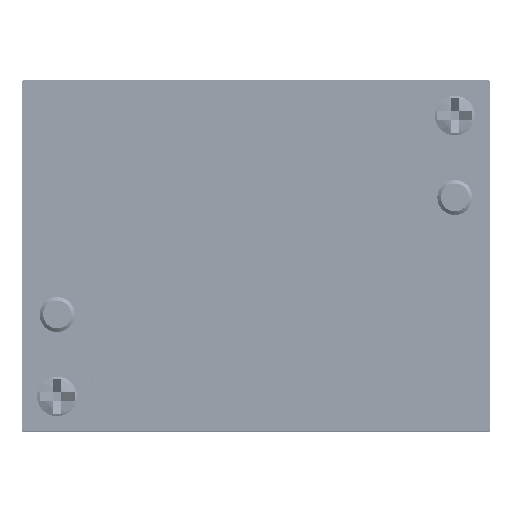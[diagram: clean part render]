
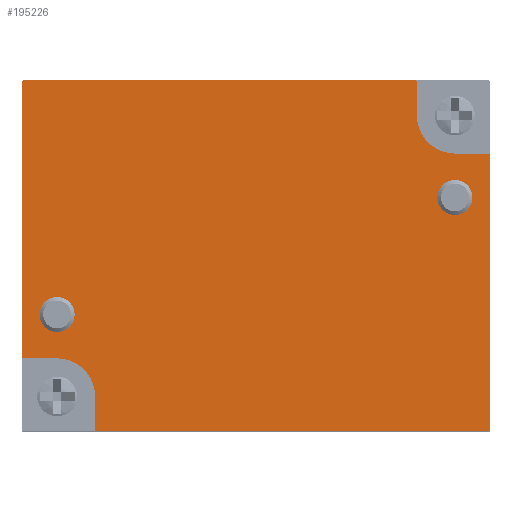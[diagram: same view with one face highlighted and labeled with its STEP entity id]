
A CAD part, top view. The second image highlights one B-rep face of the part: STEP entity #195226.
In plain terms, the highlighted planar face has unit normal (0, 0, 1).
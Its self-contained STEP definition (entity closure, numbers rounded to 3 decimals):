
#195126 = EDGE_CURVE('',#195127,#195129,#195131,.T.);
#195127 = VERTEX_POINT('',#195128);
#195128 = CARTESIAN_POINT('',(3.371,28.425,
    6.));
#195129 = VERTEX_POINT('',#195130);
#195130 = CARTESIAN_POINT('',(3.371,-5.125,
    6.));
#195131 = LINE('',#195132,#195133);
#195132 = CARTESIAN_POINT('',(3.371,28.425,
    6.));
#195133 = VECTOR('',#195134,1.);
#195134 = DIRECTION('',(0.,-1.,0.));
#195226 = ADVANCED_FACE('',(#195227,#195365,#195376),#195387,.T.);
#195227 = FACE_BOUND('',#195228,.T.);
#195228 = EDGE_LOOP('',(#195229,#195239,#195248,#195256,#195265,#195273,
    #195282,#195290,#195299,#195307,#195316,#195324,#195333,#195342,
    #195350,#195357,#195358));
#195229 = ORIENTED_EDGE('',*,*,#195230,.F.);
#195230 = EDGE_CURVE('',#195231,#195233,#195235,.T.);
#195231 = VERTEX_POINT('',#195232);
#195232 = CARTESIAN_POINT('',(27.021,-5.225,
    6.));
#195233 = VERTEX_POINT('',#195234);
#195234 = CARTESIAN_POINT('',(3.471,-5.225,
    6.));
#195235 = LINE('',#195236,#195237);
#195236 = CARTESIAN_POINT('',(27.021,-5.225,
    6.));
#195237 = VECTOR('',#195238,1.);
#195238 = DIRECTION('',(-1.,0.,0.));
#195239 = ORIENTED_EDGE('',*,*,#195240,.T.);
#195240 = EDGE_CURVE('',#195231,#195241,#195243,.T.);
#195241 = VERTEX_POINT('',#195242);
#195242 = CARTESIAN_POINT('',(27.121,-5.125,
    6.));
#195243 = CIRCLE('',#195244,0.1);
#195244 = AXIS2_PLACEMENT_3D('',#195245,#195246,#195247);
#195245 = CARTESIAN_POINT('',(27.021,-5.125,
    6.));
#195246 = DIRECTION('',(0.,0.,1.));
#195247 = DIRECTION('',(0.,1.,0.));
#195248 = ORIENTED_EDGE('',*,*,#195249,.T.);
#195249 = EDGE_CURVE('',#195241,#195250,#195252,.T.);
#195250 = VERTEX_POINT('',#195251);
#195251 = CARTESIAN_POINT('',(27.121,-2.225,
    6.));
#195252 = LINE('',#195253,#195254);
#195253 = CARTESIAN_POINT('',(27.121,-5.125,
    6.));
#195254 = VECTOR('',#195255,1.);
#195255 = DIRECTION('',(0.,1.,0.));
#195256 = ORIENTED_EDGE('',*,*,#195257,.F.);
#195257 = EDGE_CURVE('',#195258,#195250,#195260,.T.);
#195258 = VERTEX_POINT('',#195259);
#195259 = CARTESIAN_POINT('',(30.371,1.025,
    6.));
#195260 = CIRCLE('',#195261,3.25);
#195261 = AXIS2_PLACEMENT_3D('',#195262,#195263,#195264);
#195262 = CARTESIAN_POINT('',(30.371,-2.225,
    6.));
#195263 = DIRECTION('',(0.,0.,1.));
#195264 = DIRECTION('',(0.,-1.,0.));
#195265 = ORIENTED_EDGE('',*,*,#195266,.F.);
#195266 = EDGE_CURVE('',#195267,#195258,#195269,.T.);
#195267 = VERTEX_POINT('',#195268);
#195268 = CARTESIAN_POINT('',(33.271,1.025,
    6.));
#195269 = LINE('',#195270,#195271);
#195270 = CARTESIAN_POINT('',(33.271,1.025,
    6.));
#195271 = VECTOR('',#195272,1.);
#195272 = DIRECTION('',(-1.,0.,0.));
#195273 = ORIENTED_EDGE('',*,*,#195274,.T.);
#195274 = EDGE_CURVE('',#195267,#195275,#195277,.T.);
#195275 = VERTEX_POINT('',#195276);
#195276 = CARTESIAN_POINT('',(33.371,1.125,
    6.));
#195277 = CIRCLE('',#195278,0.1);
#195278 = AXIS2_PLACEMENT_3D('',#195279,#195280,#195281);
#195279 = CARTESIAN_POINT('',(33.271,1.125,
    6.));
#195280 = DIRECTION('',(0.,0.,1.));
#195281 = DIRECTION('',(0.,1.,0.));
#195282 = ORIENTED_EDGE('',*,*,#195283,.F.);
#195283 = EDGE_CURVE('',#195284,#195275,#195286,.T.);
#195284 = VERTEX_POINT('',#195285);
#195285 = CARTESIAN_POINT('',(33.371,34.675,
    6.));
#195286 = LINE('',#195287,#195288);
#195287 = CARTESIAN_POINT('',(33.371,34.675,
    6.));
#195288 = VECTOR('',#195289,1.);
#195289 = DIRECTION('',(0.,-1.,0.));
#195290 = ORIENTED_EDGE('',*,*,#195291,.T.);
#195291 = EDGE_CURVE('',#195284,#195292,#195294,.T.);
#195292 = VERTEX_POINT('',#195293);
#195293 = CARTESIAN_POINT('',(33.271,34.775,
    6.));
#195294 = CIRCLE('',#195295,0.1);
#195295 = AXIS2_PLACEMENT_3D('',#195296,#195297,#195298);
#195296 = CARTESIAN_POINT('',(33.271,34.675,
    6.));
#195297 = DIRECTION('',(0.,0.,1.));
#195298 = DIRECTION('',(0.,1.,0.));
#195299 = ORIENTED_EDGE('',*,*,#195300,.T.);
#195300 = EDGE_CURVE('',#195292,#195301,#195303,.T.);
#195301 = VERTEX_POINT('',#195302);
#195302 = CARTESIAN_POINT('',(9.721,34.775,
    6.));
#195303 = LINE('',#195304,#195305);
#195304 = CARTESIAN_POINT('',(33.271,34.775,
    6.));
#195305 = VECTOR('',#195306,1.);
#195306 = DIRECTION('',(-1.,0.,0.));
#195307 = ORIENTED_EDGE('',*,*,#195308,.T.);
#195308 = EDGE_CURVE('',#195301,#195309,#195311,.T.);
#195309 = VERTEX_POINT('',#195310);
#195310 = CARTESIAN_POINT('',(9.621,34.675,
    6.));
#195311 = CIRCLE('',#195312,0.1);
#195312 = AXIS2_PLACEMENT_3D('',#195313,#195314,#195315);
#195313 = CARTESIAN_POINT('',(9.721,34.675,
    6.));
#195314 = DIRECTION('',(0.,0.,1.));
#195315 = DIRECTION('',(0.,1.,0.));
#195316 = ORIENTED_EDGE('',*,*,#195317,.T.);
#195317 = EDGE_CURVE('',#195309,#195318,#195320,.T.);
#195318 = VERTEX_POINT('',#195319);
#195319 = CARTESIAN_POINT('',(9.621,31.775,
    6.));
#195320 = LINE('',#195321,#195322);
#195321 = CARTESIAN_POINT('',(9.621,34.675,
    6.));
#195322 = VECTOR('',#195323,1.);
#195323 = DIRECTION('',(0.,-1.,0.));
#195324 = ORIENTED_EDGE('',*,*,#195325,.F.);
#195325 = EDGE_CURVE('',#195326,#195318,#195328,.T.);
#195326 = VERTEX_POINT('',#195327);
#195327 = CARTESIAN_POINT('',(6.371,28.525,
    6.));
#195328 = CIRCLE('',#195329,3.25);
#195329 = AXIS2_PLACEMENT_3D('',#195330,#195331,#195332);
#195330 = CARTESIAN_POINT('',(6.371,31.775,
    6.));
#195331 = DIRECTION('',(0.,0.,1.));
#195332 = DIRECTION('',(0.,-1.,0.));
#195333 = ORIENTED_EDGE('',*,*,#195334,.F.);
#195334 = EDGE_CURVE('',#195335,#195326,#195337,.T.);
#195335 = VERTEX_POINT('',#195336);
#195336 = CARTESIAN_POINT('',(6.368,28.525,
    6.));
#195337 = CIRCLE('',#195338,3.25);
#195338 = AXIS2_PLACEMENT_3D('',#195339,#195340,#195341);
#195339 = CARTESIAN_POINT('',(6.371,31.775,
    6.));
#195340 = DIRECTION('',(0.,0.,1.));
#195341 = DIRECTION('',(0.,-1.,0.));
#195342 = ORIENTED_EDGE('',*,*,#195343,.F.);
#195343 = EDGE_CURVE('',#195344,#195335,#195346,.T.);
#195344 = VERTEX_POINT('',#195345);
#195345 = CARTESIAN_POINT('',(3.471,28.525,
    6.));
#195346 = LINE('',#195347,#195348);
#195347 = CARTESIAN_POINT('',(3.471,28.525,
    6.));
#195348 = VECTOR('',#195349,1.);
#195349 = DIRECTION('',(1.,0.,0.));
#195350 = ORIENTED_EDGE('',*,*,#195351,.T.);
#195351 = EDGE_CURVE('',#195344,#195127,#195352,.T.);
#195352 = CIRCLE('',#195353,0.1);
#195353 = AXIS2_PLACEMENT_3D('',#195354,#195355,#195356);
#195354 = CARTESIAN_POINT('',(3.471,28.425,
    6.));
#195355 = DIRECTION('',(0.,0.,1.));
#195356 = DIRECTION('',(0.,1.,0.));
#195357 = ORIENTED_EDGE('',*,*,#195126,.T.);
#195358 = ORIENTED_EDGE('',*,*,#195359,.T.);
#195359 = EDGE_CURVE('',#195129,#195233,#195360,.T.);
#195360 = CIRCLE('',#195361,0.1);
#195361 = AXIS2_PLACEMENT_3D('',#195362,#195363,#195364);
#195362 = CARTESIAN_POINT('',(3.471,-5.125,
    6.));
#195363 = DIRECTION('',(0.,0.,1.));
#195364 = DIRECTION('',(0.,1.,0.));
#195365 = FACE_BOUND('',#195366,.T.);
#195366 = EDGE_LOOP('',(#195367));
#195367 = ORIENTED_EDGE('',*,*,#195368,.F.);
#195368 = EDGE_CURVE('',#195369,#195369,#195371,.T.);
#195369 = VERTEX_POINT('',#195370);
#195370 = CARTESIAN_POINT('',(13.371,30.275,
    6.));
#195371 = CIRCLE('',#195372,1.5);
#195372 = AXIS2_PLACEMENT_3D('',#195373,#195374,#195375);
#195373 = CARTESIAN_POINT('',(13.371,31.775,
    6.));
#195374 = DIRECTION('',(0.,0.,1.));
#195375 = DIRECTION('',(0.,-1.,0.));
#195376 = FACE_BOUND('',#195377,.T.);
#195377 = EDGE_LOOP('',(#195378));
#195378 = ORIENTED_EDGE('',*,*,#195379,.F.);
#195379 = EDGE_CURVE('',#195380,#195380,#195382,.T.);
#195380 = VERTEX_POINT('',#195381);
#195381 = CARTESIAN_POINT('',(23.371,-3.725,
    6.));
#195382 = CIRCLE('',#195383,1.5);
#195383 = AXIS2_PLACEMENT_3D('',#195384,#195385,#195386);
#195384 = CARTESIAN_POINT('',(23.371,-2.225,
    6.));
#195385 = DIRECTION('',(0.,0.,1.));
#195386 = DIRECTION('',(0.,-1.,0.));
#195387 = PLANE('',#195388);
#195388 = AXIS2_PLACEMENT_3D('',#195389,#195390,#195391);
#195389 = CARTESIAN_POINT('',(3.371,30.525,
    6.));
#195390 = DIRECTION('',(0.,0.,1.));
#195391 = DIRECTION('',(0.,-1.,0.));
